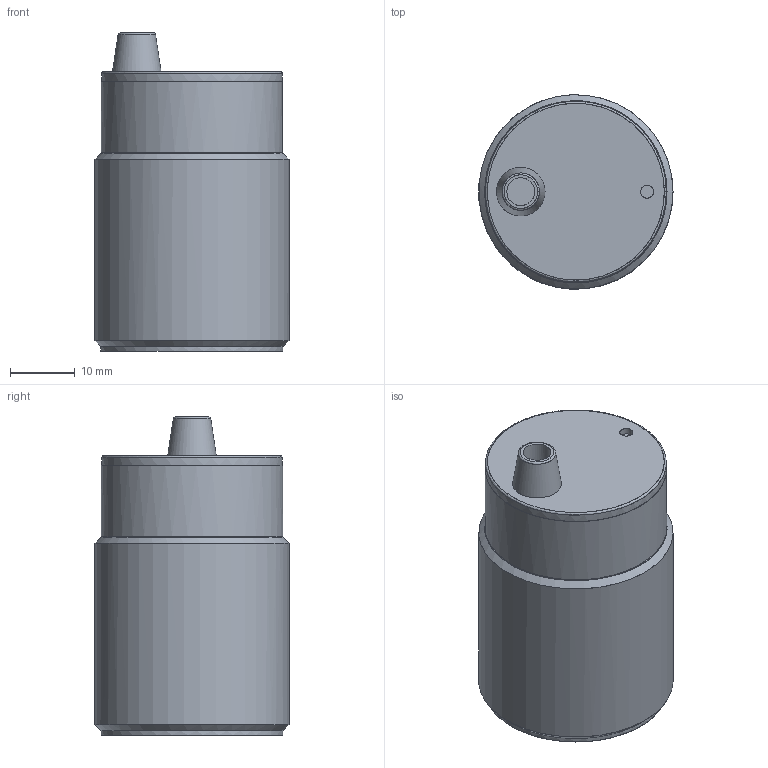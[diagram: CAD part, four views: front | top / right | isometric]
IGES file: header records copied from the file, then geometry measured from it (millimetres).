
Global section: file name: c:\studi10\DSD-0298.igs; preprocessor: I-DEAS 3D IGES Translator 13; date: 20100119.163024; units: millimetre
Bounding box: 29.95 x 29.96 x 49.12 mm (x, y, z)
Surface area: 15322.3 mm2 (no closed solid volume)
Topology: 0 solids, 0 shells, 51 faces, 374 edges, 310 vertices
Faces by surface type: bspline 51
